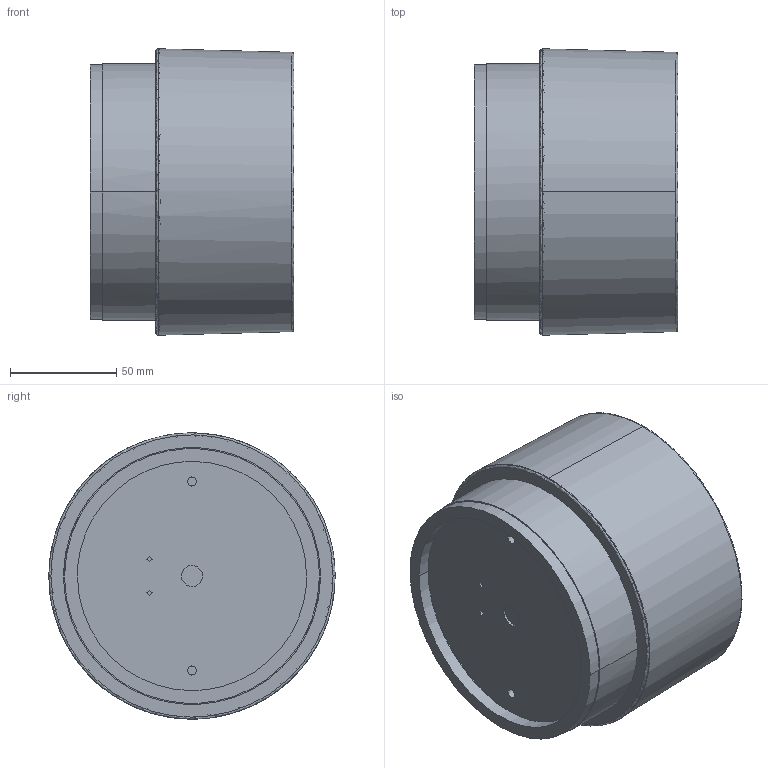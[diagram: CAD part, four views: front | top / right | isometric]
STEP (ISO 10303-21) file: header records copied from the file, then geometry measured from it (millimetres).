
FILE_DESCRIPTION(/* description */ (''),/* implementation_level */ '2;1');
FILE_NAME(/* name */ 'I4NAV4~O',/* time_stamp */ '2021-11-15T16:10:56+08:00',/* author */ (''),/* organization */ (''),/* preprocessor_version */ 'ST-DEVELOPER v16.5',/* originating_system */ '',/* authorisation */ '');
FILE_SCHEMA (('AUTOMOTIVE_DESIGN'));
Length unit declared in the file: millimetre
Products named in the file (1): Document
Bounding box: 96 x 134.94 x 134.95 mm (x, y, z)
Volume: 99797 mm3; surface area: 177222.5 mm2
Topology: 4 solids, 8 shells, 140 faces, 346 edges, 223 vertices
Faces by surface type: bspline 112, plane 28
Entity records: 9320 total; most frequent: CARTESIAN_POINT 7367, ORIENTED_EDGE 653, EDGE_CURVE 330, VERTEX_POINT 220, EDGE_LOOP 164, B_SPLINE_CURVE_WITH_KNOTS 136, ADVANCED_FACE 136, FACE_OUTER_BOUND 136
